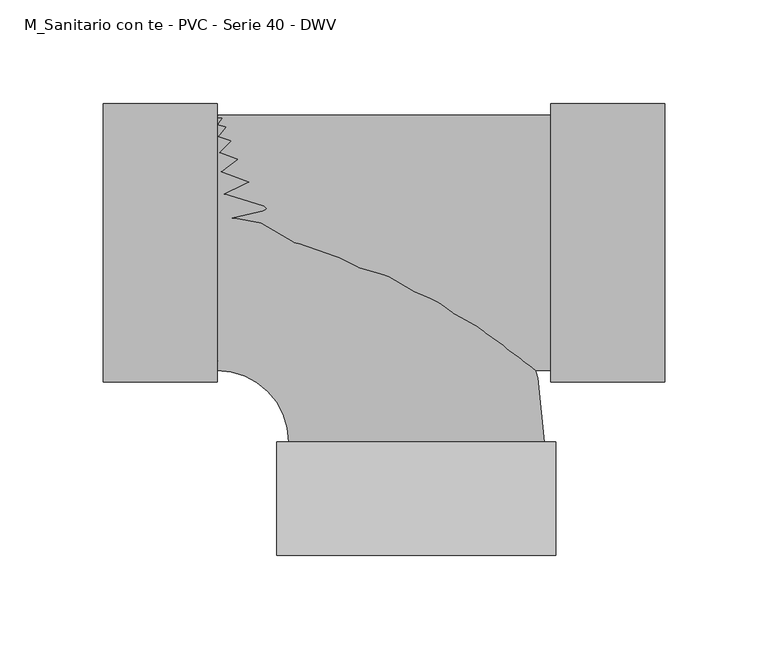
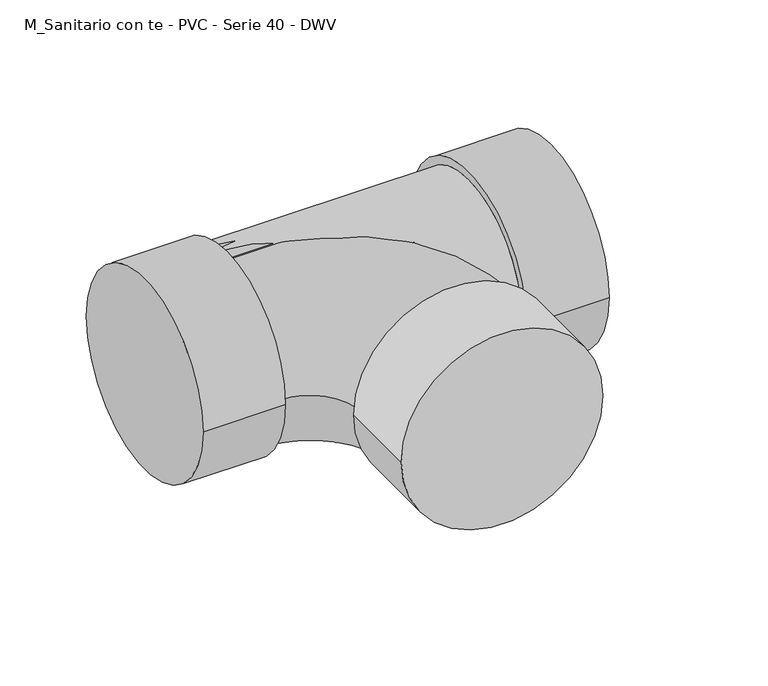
"""IFC4 building model written with IfcOpenShell, lengths in millimetres: pipe fitting geometry, M_Sanitario con te - PVC - Serie 40 - DWV : Estándar."""

from ifc_helpers import new_model, si_unit, point, frame, origin, place, context, project, spatial, circle_curve, ellipse_curve, trimmed, source, transform, mapped, element, save
from ifc_brep_helpers import plane_surface, cylinder_surface, revolved_surface, advanced_brep


def m_sanitario_con_te_pvc_serie_40_dwv_ccfb513b(model_context):
    return source(origin(), model_context, "Body", "AdvancedBrep", [
        advanced_brep(
        [(-96.2140625, -61.7640625, 0.0), (-96.2140625, 61.7640625, 0.0), (-61.7640625, -96.2140625, 0.0), (61.7640625, -96.2140625, 0.0), (67.3871094, -151.2140625, 0.0), (-67.3871094, -151.2140625, 0.0), (67.3871094, -96.2140625, 0.0), (-67.3871094, -96.2140625, 0.0)],
        [
            (0, 1, circle_curve(frame((-96.2140625, 0.0, 0.0), z_axis=(-1.0, 0.0, 0.0), x_axis=(0.0, 1.0, 0.0)), 61.7640625)),
            (1, 0, circle_curve(frame((-96.2140625, 0.0, 0.0), z_axis=(-1.0, 0.0, 0.0), x_axis=(0.0, 1.0, 0.0)), 61.7640625)),
            (0, 2, circle_curve(frame((-96.2140625, -96.2140625, 0.0), z_axis=(0.0, 0.0, -1.0), x_axis=(0.0, 1.0, 0.0)), 34.45)),
            (2, 3, circle_curve(frame((0.0, -96.2140625, 0.0), z_axis=(-1.0287938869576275e-12, 1.0, 0.0), x_axis=(1.0, 1.0287938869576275e-12, 0.0)), 61.7640625)),
            (3, 1, circle_curve(frame((-96.2140625, -96.2140625, 0.0), z_axis=(0.0, 0.0, 1.0), x_axis=(0.0, 1.0, 0.0)), 157.978125)),
            (3, 2, circle_curve(frame((0.0, -96.2140625, 0.0), z_axis=(-1.0287938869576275e-12, 1.0, 0.0), x_axis=(1.0, 1.0287938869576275e-12, 0.0)), 61.7640625)),
            (4, 5, circle_curve(frame((0.0, -151.2140625, 0.0), z_axis=(0.0, -1.0, 0.0), x_axis=(-1.0, 0.0, 0.0)), 67.3871094)),
            (5, 4, circle_curve(frame((0.0, -151.2140625, 0.0), z_axis=(0.0, -1.0, 0.0), x_axis=(-1.0, 0.0, 0.0)), 67.3871094)),
            (6, 7, circle_curve(frame((0.0, -96.2140625, 0.0), z_axis=(0.0, 1.0, 0.0), x_axis=(-1.0, 0.0, 0.0)), 67.3871094)),
            (7, 6, circle_curve(frame((0.0, -96.2140625, 0.0), z_axis=(0.0, 1.0, 0.0), x_axis=(-1.0, 0.0, 0.0)), 67.3871094)),
            (4, 6),
            (7, 5),
        ],
        [
            plane_surface(frame((-96.2140625, 0.0, 0.0), z_axis=(-1.0, 0.0, 0.0), x_axis=(0.0, 0.0, 1.0))),
            revolved_surface(trimmed(ellipse_curve(frame((-96.2140625, 0.0, 0.0), z_axis=(-1.0, 0.0, 0.0), x_axis=(0.0, 1.0, 0.0)), 61.7640625, 61.7640625), [point((-96.2140625, -61.7640625, 0.0))], [point((-96.2140625, 61.7640625, 0.0))], True, "CARTESIAN"), (-96.2140625, -96.2140625, 0.0), (0.0, 0.0, -1.0)),
            revolved_surface(trimmed(ellipse_curve(frame((-96.2140625, 0.0, 0.0), z_axis=(-1.0, 0.0, 0.0), x_axis=(0.0, 1.0, 0.0)), 61.7640625, 61.7640625), [point((-96.2140625, 61.7640625, 0.0))], [point((-96.2140625, -61.7640625, 0.0))], True, "CARTESIAN"), (-96.2140625, -96.2140625, 0.0), (0.0, 0.0, -1.0)),
            plane_surface(frame((0.0, -151.2140625, 0.0), z_axis=(0.0, -1.0, 0.0), x_axis=(0.0, 0.0, 1.0))),
            plane_surface(frame((0.0, -96.2140625, 0.0), z_axis=(0.0, 1.0, 0.0), x_axis=(0.0, 0.0, 1.0))),
            cylinder_surface(frame((0.0, -151.2140625, 0.0), z_axis=(0.0, -1.0, 0.0), x_axis=(-1.0, 0.0, 0.0)), 67.3871094),
        ],
        [
            (0, [[1, 2]]),
            (1, [[-1, 3, 4, 5]]),
            (2, [[-2, -5, 6, -3]]),
            (3, [[7, 8]]),
            (4, [[9, 10], [-4, -6]]),
            (5, [[-7, 11, -10, 12]]),
            (5, [[-8, -12, -9, -11]]),
        ],
    ),
        advanced_brep(
        [(-96.2140625, -61.7640625, 0.0), (64.865625, -61.7640625, 0.0), (64.865625, 61.7640625, 0.0), (-96.2140625, 61.7640625, 0.0), (64.865625, -67.3871094, 0.0), (64.865625, 67.3871094, 0.0), (119.865625, -67.3871094, 0.0), (119.865625, 67.3871094, 0.0), (-151.2140625, -67.3871094, 0.0), (-151.2140625, 67.3871094, 0.0), (-96.2140625, -67.3871094, 0.0), (-96.2140625, 67.3871094, 0.0)],
        [
            (0, 1),
            (1, 2, circle_curve(frame((64.865625, 0.0, 0.0), z_axis=(-1.0, 0.0, 0.0), x_axis=(0.0, 1.0, 0.0)), 61.7640625)),
            (2, 3),
            (3, 0, circle_curve(frame((-96.2140625, 0.0, 0.0), z_axis=(1.0, 0.0, 0.0), x_axis=(0.0, 1.0, 0.0)), 61.7640625)),
            (0, 3, circle_curve(frame((-96.2140625, 0.0, 0.0), z_axis=(1.0, 0.0, 0.0), x_axis=(0.0, 1.0, 0.0)), 61.7640625)),
            (2, 1, circle_curve(frame((64.865625, 0.0, 0.0), z_axis=(-1.0, 0.0, 0.0), x_axis=(0.0, 1.0, 0.0)), 61.7640625)),
            (4, 5, circle_curve(frame((64.865625, 0.0, 0.0), z_axis=(-1.0, 0.0, 0.0), x_axis=(0.0, 1.0, 0.0)), 67.3871094)),
            (5, 4, circle_curve(frame((64.865625, 0.0, 0.0), z_axis=(-1.0, 0.0, 0.0), x_axis=(0.0, 1.0, 0.0)), 67.3871094)),
            (6, 7, circle_curve(frame((119.865625, 0.0, 0.0), z_axis=(1.0, 0.0, 0.0), x_axis=(0.0, 1.0, 0.0)), 67.3871094)),
            (7, 6, circle_curve(frame((119.865625, 0.0, 0.0), z_axis=(1.0, 0.0, 0.0), x_axis=(0.0, 1.0, 0.0)), 67.3871094)),
            (4, 6),
            (7, 5),
            (8, 9, circle_curve(frame((-151.2140625, 0.0, 0.0), z_axis=(-1.0, 0.0, 0.0), x_axis=(0.0, 1.0, 0.0)), 67.3871094)),
            (9, 8, circle_curve(frame((-151.2140625, 0.0, 0.0), z_axis=(-1.0, 0.0, 0.0), x_axis=(0.0, 1.0, 0.0)), 67.3871094)),
            (10, 11, circle_curve(frame((-96.2140625, 0.0, 0.0), z_axis=(1.0, 0.0, 0.0), x_axis=(0.0, 1.0, 0.0)), 67.3871094)),
            (11, 10, circle_curve(frame((-96.2140625, 0.0, 0.0), z_axis=(1.0, 0.0, 0.0), x_axis=(0.0, 1.0, 0.0)), 67.3871094)),
            (8, 10),
            (11, 9),
        ],
        [
            cylinder_surface(frame((-96.2140625, 0.0, 0.0), z_axis=(-1.0, 0.0, 0.0), x_axis=(0.0, 1.0, 0.0)), 61.7640625),
            plane_surface(frame((64.865625, 0.0, 0.0), z_axis=(-1.0, 0.0, 0.0), x_axis=(0.0, 0.0, 1.0))),
            plane_surface(frame((119.865625, 0.0, 0.0), z_axis=(1.0, 0.0, 0.0), x_axis=(0.0, 0.0, 1.0))),
            cylinder_surface(frame((64.865625, 0.0, 0.0), z_axis=(-1.0, 0.0, 0.0), x_axis=(0.0, 1.0, 0.0)), 67.3871094),
            plane_surface(frame((-151.2140625, 0.0, 0.0), z_axis=(-1.0, 0.0, 0.0), x_axis=(0.0, 0.0, 1.0))),
            plane_surface(frame((-96.2140625, 0.0, 0.0), z_axis=(1.0, 0.0, 0.0), x_axis=(0.0, 0.0, 1.0))),
            cylinder_surface(frame((-151.2140625, 0.0, 0.0), z_axis=(-1.0, 0.0, 0.0), x_axis=(0.0, 1.0, 0.0)), 67.3871094),
        ],
        [
            (0, [[1, 2, 3, 4]]),
            (0, [[-1, 5, -3, 6]]),
            (1, [[7, 8], [-2, -6]]),
            (2, [[9, 10]]),
            (3, [[-7, 11, -10, 12]]),
            (3, [[-8, -12, -9, -11]]),
            (4, [[13, 14]]),
            (5, [[15, 16], [-4, -5]]),
            (6, [[-13, 17, -16, 18]]),
            (6, [[-14, -18, -15, -17]]),
        ],
    ),
    ])


if __name__ == "__main__":
    model = new_model("IFC4")
    model_context = context("Model", 3, world=origin())
    ifc_project = project(units=[si_unit("LENGTHUNIT", "METRE", prefix="MILLI")], contexts=[model_context])
    site = spatial("IfcSite", under=ifc_project)
    building = spatial("IfcBuilding", under=site)
    placement = place(None, origin())
    m_sanitario_con_te_pvc_serie_40_dwv_shape = m_sanitario_con_te_pvc_serie_40_dwv_ccfb513b(model_context)
    element("IfcPipeFitting", 1, ObjectType="M_Sanitario con te - PVC - Serie 40 - DWV : Estándar", at=placement, inside=building, context=model_context, shape_type="MappedRepresentation", body=[
        mapped(m_sanitario_con_te_pvc_serie_40_dwv_shape, transform((0.0, 0.0, 0.0), x_axis=(1.0, 0.0, 0.0), y_axis=(0.0, 1.0, 0.0), z_axis=(0.0, 0.0, 1.0))),
    ])
    save(model, "model.ifc")
